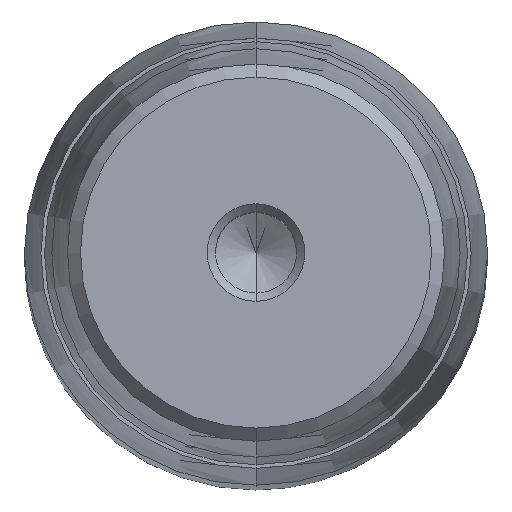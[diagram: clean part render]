
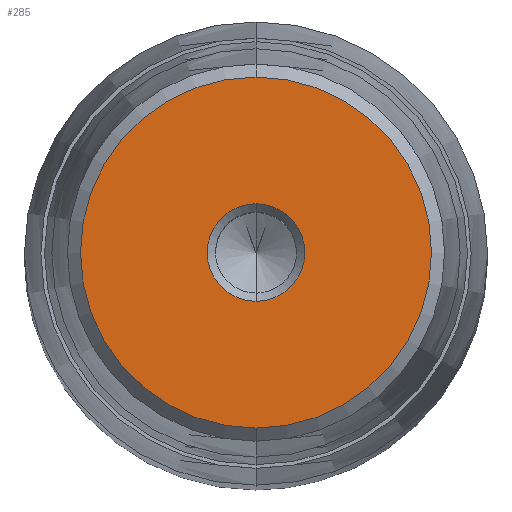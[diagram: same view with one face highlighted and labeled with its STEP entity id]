
A CAD part, top view. The second image highlights one B-rep face of the part: STEP entity #285.
In plain terms, the highlighted planar face has unit normal (0, 0, 1).
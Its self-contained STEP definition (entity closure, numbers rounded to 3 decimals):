
#164=CARTESIAN_POINT('Axis2P3D Location',(0.,0.,48.)) ;
#168=CARTESIAN_POINT('Vertex',(4.,0.,48.)) ;
#170=CARTESIAN_POINT('Vertex',(0.,-4.,48.)) ;
#173=CARTESIAN_POINT('Axis2P3D Location',(0.,0.,48.)) ;
#177=CARTESIAN_POINT('Vertex',(0.,4.,48.)) ;
#228=CARTESIAN_POINT('Axis2P3D Location',(0.,4.,48.)) ;
#233=CARTESIAN_POINT('Axis2P3D Location',(0.,0.,48.)) ;
#237=CARTESIAN_POINT('Vertex',(0.,14.4,48.)) ;
#239=CARTESIAN_POINT('Vertex',(14.4,0.,48.)) ;
#242=CARTESIAN_POINT('Axis2P3D Location',(0.,0.,48.)) ;
#246=CARTESIAN_POINT('Vertex',(-14.4,0.,48.)) ;
#249=CARTESIAN_POINT('Axis2P3D Location',(0.,0.,48.)) ;
#253=CARTESIAN_POINT('Vertex',(0.,-14.4,48.)) ;
#256=CARTESIAN_POINT('Axis2P3D Location',(0.,0.,48.)) ;
#267=CARTESIAN_POINT('Axis2P3D Location',(0.,0.,48.)) ;
#271=CARTESIAN_POINT('Vertex',(-4.,0.,48.)) ;
#274=CARTESIAN_POINT('Axis2P3D Location',(0.,0.,48.)) ;
#165=DIRECTION('Axis2P3D Direction',(-0.,0.,1.)) ;
#174=DIRECTION('Axis2P3D Direction',(-0.,0.,1.)) ;
#229=DIRECTION('Axis2P3D Direction',(0.,0.,-1.)) ;
#230=DIRECTION('Axis2P3D XDirection',(0.,1.,0.)) ;
#234=DIRECTION('Axis2P3D Direction',(0.,0.,-1.)) ;
#243=DIRECTION('Axis2P3D Direction',(0.,0.,-1.)) ;
#250=DIRECTION('Axis2P3D Direction',(0.,0.,-1.)) ;
#257=DIRECTION('Axis2P3D Direction',(0.,0.,-1.)) ;
#268=DIRECTION('Axis2P3D Direction',(0.,0.,-1.)) ;
#275=DIRECTION('Axis2P3D Direction',(0.,0.,-1.)) ;
#166=AXIS2_PLACEMENT_3D('Circle Axis2P3D',#164,#165,$) ;
#175=AXIS2_PLACEMENT_3D('Circle Axis2P3D',#173,#174,$) ;
#231=AXIS2_PLACEMENT_3D('Plane Axis2P3D',#228,#229,#230) ;
#235=AXIS2_PLACEMENT_3D('Circle Axis2P3D',#233,#234,$) ;
#244=AXIS2_PLACEMENT_3D('Circle Axis2P3D',#242,#243,$) ;
#251=AXIS2_PLACEMENT_3D('Circle Axis2P3D',#249,#250,$) ;
#258=AXIS2_PLACEMENT_3D('Circle Axis2P3D',#256,#257,$) ;
#269=AXIS2_PLACEMENT_3D('Circle Axis2P3D',#267,#268,$) ;
#276=AXIS2_PLACEMENT_3D('Circle Axis2P3D',#274,#275,$) ;
#262=ORIENTED_EDGE('',*,*,#241,.F.) ;
#263=ORIENTED_EDGE('',*,*,#248,.F.) ;
#264=ORIENTED_EDGE('',*,*,#255,.F.) ;
#265=ORIENTED_EDGE('',*,*,#260,.F.) ;
#280=ORIENTED_EDGE('',*,*,#172,.T.) ;
#281=ORIENTED_EDGE('',*,*,#273,.T.) ;
#282=ORIENTED_EDGE('',*,*,#278,.T.) ;
#283=ORIENTED_EDGE('',*,*,#179,.T.) ;
#284=FACE_BOUND('',#279,.T.) ;
#285=ADVANCED_FACE('722-38x250x283',(#266,#284),#232,.F.) ;
#167=CIRCLE('generated circle',#166,4.) ;
#176=CIRCLE('generated circle',#175,4.) ;
#236=CIRCLE('generated circle',#235,14.4) ;
#245=CIRCLE('generated circle',#244,14.4) ;
#252=CIRCLE('generated circle',#251,14.4) ;
#259=CIRCLE('generated circle',#258,14.4) ;
#270=CIRCLE('generated circle',#269,4.) ;
#277=CIRCLE('generated circle',#276,4.) ;
#172=EDGE_CURVE('',#169,#171,#167,.F.) ;
#179=EDGE_CURVE('',#178,#169,#176,.F.) ;
#241=EDGE_CURVE('',#238,#240,#236,.T.) ;
#248=EDGE_CURVE('',#247,#238,#245,.T.) ;
#255=EDGE_CURVE('',#254,#247,#252,.T.) ;
#260=EDGE_CURVE('',#240,#254,#259,.T.) ;
#273=EDGE_CURVE('',#171,#272,#270,.T.) ;
#278=EDGE_CURVE('',#272,#178,#277,.T.) ;
#261=EDGE_LOOP('',(#262,#263,#264,#265)) ;
#279=EDGE_LOOP('',(#280,#281,#282,#283)) ;
#266=FACE_OUTER_BOUND('',#261,.T.) ;
#232=PLANE('Plane',#231) ;
#169=VERTEX_POINT('',#168) ;
#171=VERTEX_POINT('',#170) ;
#178=VERTEX_POINT('',#177) ;
#238=VERTEX_POINT('',#237) ;
#240=VERTEX_POINT('',#239) ;
#247=VERTEX_POINT('',#246) ;
#254=VERTEX_POINT('',#253) ;
#272=VERTEX_POINT('',#271) ;
